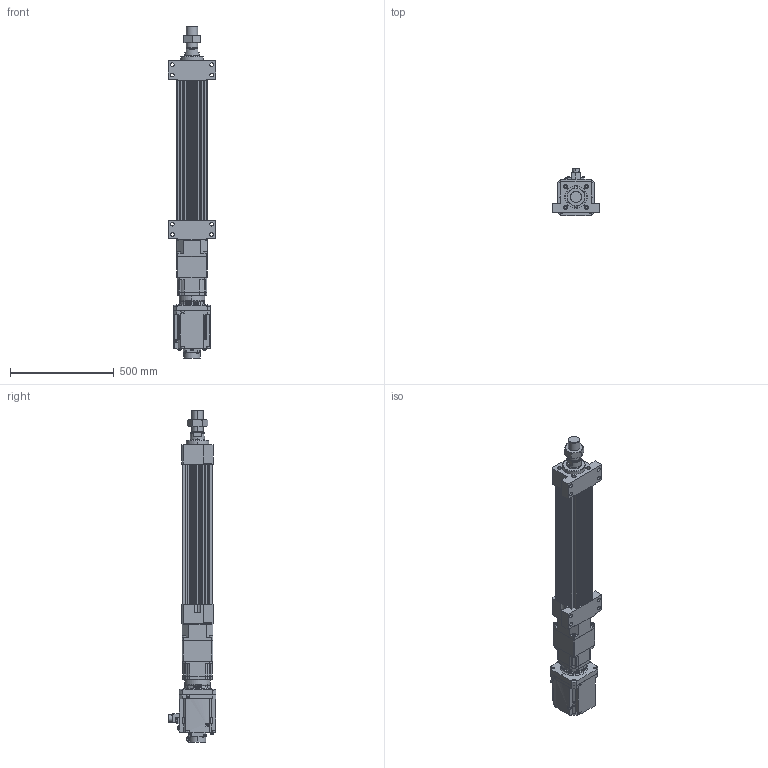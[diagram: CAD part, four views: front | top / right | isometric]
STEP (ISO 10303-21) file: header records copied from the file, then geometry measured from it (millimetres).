
FILE_DESCRIPTION (( 'STEP AP203' ), '1' );
FILE_NAME ('HES150NS(HS)-S400-W050G00-M-FFB.STEP', '2026-06-10T06:40:38', ( 'tms' ), ( '' ), 'SwSTEP 2.0', 'SolidWorks 2013', '' );
FILE_SCHEMA (( 'CONFIG_CONTROL_DESIGN' ));
Length unit declared in the file: millimetre
Products named in the file (9): HES150-FFB-400; AB1422; HG-SR502B; HES150-M-ROD-400; HES150NS(HS)-S400-W050G00-M-FFB; M56X2.0P; AB1421; AB1423; HES150-S-G142
Assembly tree (8 placements, depth 2):
  HES150NS(HS)-S400-W050G00-M-FFB
    HES150-FFB-400
    HES150-M-ROD-400
    M56X2.0P
    HES150-S-G142
    AB1421
    AB1422
    AB1423
    HG-SR502B
Bounding box: 230 x 228.85 x 1603 mm (x, y, z)
Volume: 18962951.8 mm3; surface area: 1959982.2 mm2
Topology: 5 solids, 19 shells, 1554 faces, 4050 edges, 2642 vertices
Faces by surface type: cylinder 710, plane 622, cone 140, bspline 76, torus 6
Entity records: 56814 total; most frequent: CARTESIAN_POINT 17056, DIRECTION 8322, ORIENTED_EDGE 8026, EDGE_CURVE 4035, AXIS2_PLACEMENT_3D 3133, VERTEX_POINT 2642, LINE 2056, VECTOR 2056
